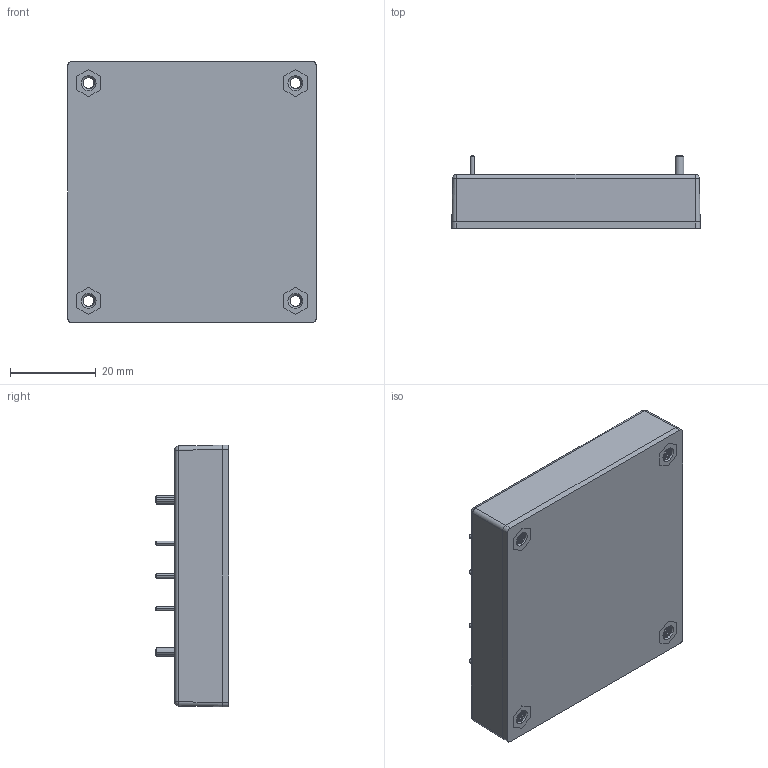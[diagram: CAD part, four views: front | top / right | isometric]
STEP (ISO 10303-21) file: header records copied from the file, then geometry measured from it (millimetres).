
FILE_DESCRIPTION (( 'STEP AP214' ), '1' );
FILE_NAME ('CHB150-110S ¦¨«~¹Ï 100,03,09.STEP', '2018-01-08T02:43:33', ( 'cincon' ), ( '' ), 'SwSTEP 2.0', 'SolidWorks 2008', '' );
FILE_SCHEMA (( 'AUTOMOTIVE_DESIGN' ));
Length unit declared in the file: millimetre
Products named in the file (8): CHB150-110SXX 鋁板(M-C560-01-J)G6611411617,G6611421617; CHB150-110S 成品圖 100,03,09; CHB150-110SXX 變壓器991101; CHB150-110SXX PCB板示意圖 991102; CHB150-110XX M3x12.6mm 六角銅柱(M-C560-01-J); CHB150W,200W,350 側環BASE(M-C583-01-O) 106,12,12 無字; CHB150W,200W,350 CASE HB-9(M-C520-04-M)G5119310012,G5114510012
Assembly tree (10 placements, depth 3):
  CHB150-110S 成品圖 100,03,09
    CHB150-110SXX 變壓器991101
    CHB150-110SXX PCB板示意圖 991102
    CHB150W,200W,350 側環BASE(M-C583-01-O) 106,12,12 無字
    CHB150-110SXX 鋁板(M-C560-01-J)G6611411617,G6611421617
      CHB150-110XX M3x12.6mm 六角銅柱(M-C560-01-J)  x4
      CHB150-110SXX 鋁板(M-C560-01-J)G6611411617,G6611421617
    CHB150W,200W,350 CASE HB-9(M-C520-04-M)G5119310012,G5114510012
Bounding box: 57.9 x 17.1 x 61 mm (x, y, z)
Volume: 19245.1 mm3; surface area: 32190.4 mm2
Topology: 9 solids, 9 shells, 2327 faces, 6393 edges, 4136 vertices
Faces by surface type: cylinder 1034, plane 868, torus 306, cone 92, sphere 14, bspline 13
Entity records: 73541 total; most frequent: CARTESIAN_POINT 19221, ORIENTED_EDGE 11596, DIRECTION 11281, EDGE_CURVE 5798, AXIS2_PLACEMENT_3D 4197, VERTEX_POINT 3743, VECTOR 2887, LINE 2887
